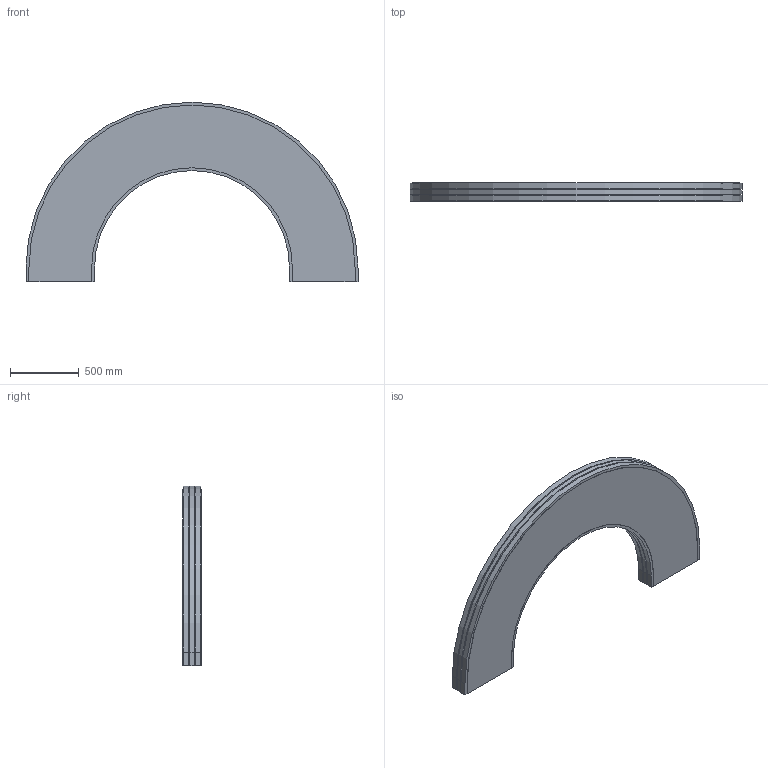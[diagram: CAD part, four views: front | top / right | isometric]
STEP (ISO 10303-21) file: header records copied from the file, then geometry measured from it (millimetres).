
FILE_DESCRIPTION (( 'STEP AP214' ), '1' );
FILE_NAME ('02.150H18.500.N FS-MTC-150 Bocht horizontaal 180°.STEP', '2013-03-29T11:17:41', ( 'Gebruiker' ), ( '' ), 'SwSTEP 2.0', 'SolidWorks 2012', '' );
FILE_SCHEMA (( 'AUTOMOTIVE_DESIGN' ));
Length unit declared in the file: millimetre
Products named in the file (1): 02.150H18.500.N FS-MTC-150 Bocht horizontaal 180°
Bounding box: 2419 x 136 x 1309.5 mm (x, y, z)
Volume: 216370915.5 mm3; surface area: 4501793.5 mm2
Topology: 1 solids, 1 shells, 58 faces, 168 edges, 112 vertices
Faces by surface type: plane 44, cylinder 14
Entity records: 1934 total; most frequent: CARTESIAN_POINT 339, ORIENTED_EDGE 336, DIRECTION 314, EDGE_CURVE 168, VECTOR 140, LINE 140, VERTEX_POINT 112, AXIS2_PLACEMENT_3D 87
